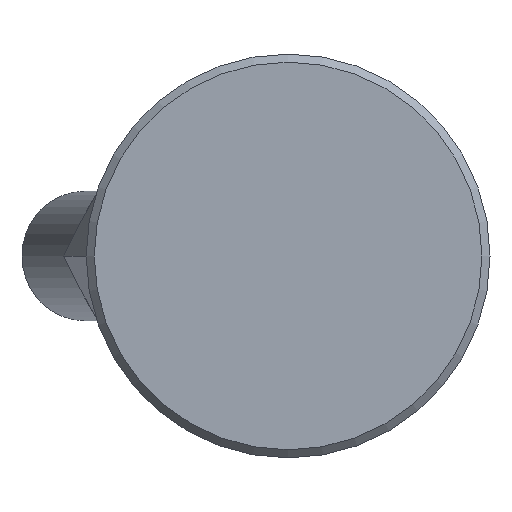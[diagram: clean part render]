
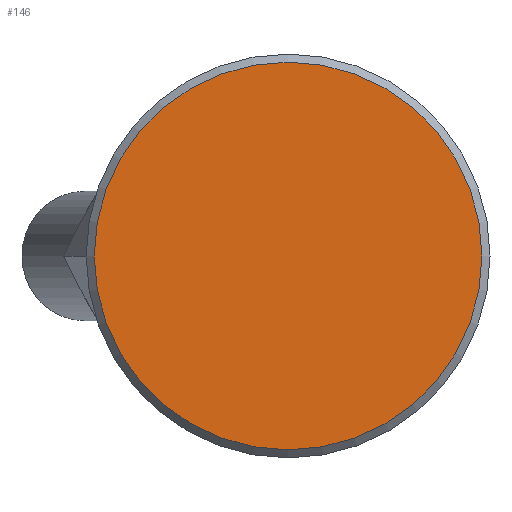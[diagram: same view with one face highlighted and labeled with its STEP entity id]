
A CAD part, front view. The second image highlights one B-rep face of the part: STEP entity #146.
In plain terms, the highlighted planar face has unit normal (0, -1, 0).
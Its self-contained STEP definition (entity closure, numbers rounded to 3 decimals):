
#146 = ADVANCED_FACE( '', ( #301 ), #302, .F. );
#301 = FACE_OUTER_BOUND( '', #497, .T. );
#302 = PLANE( '', #498 );
#497 = EDGE_LOOP( '', ( #725 ) );
#498 = AXIS2_PLACEMENT_3D( '', #726, #727, #728 );
#725 = ORIENTED_EDGE( '', *, *, #1146, .T. );
#726 = CARTESIAN_POINT( '', ( 12., 0., 0. ) );
#727 = DIRECTION( '', ( 0., 1., 0. ) );
#728 = DIRECTION( '', ( 0., 0., 1. ) );
#1146 = EDGE_CURVE( '', #1316, #1316, #1317, .T. );
#1316 = VERTEX_POINT( '', #1565 );
#1317 = CIRCLE( '', #1566, 12. );
#1565 = CARTESIAN_POINT( '', ( 0., 0., -12. ) );
#1566 = AXIS2_PLACEMENT_3D( '', #2066, #2067, #2068 );
#2066 = CARTESIAN_POINT( '', ( 0., 0., 0. ) );
#2067 = DIRECTION( '', ( 0., -1., 0. ) );
#2068 = DIRECTION( '', ( 0., 0., -1. ) );
